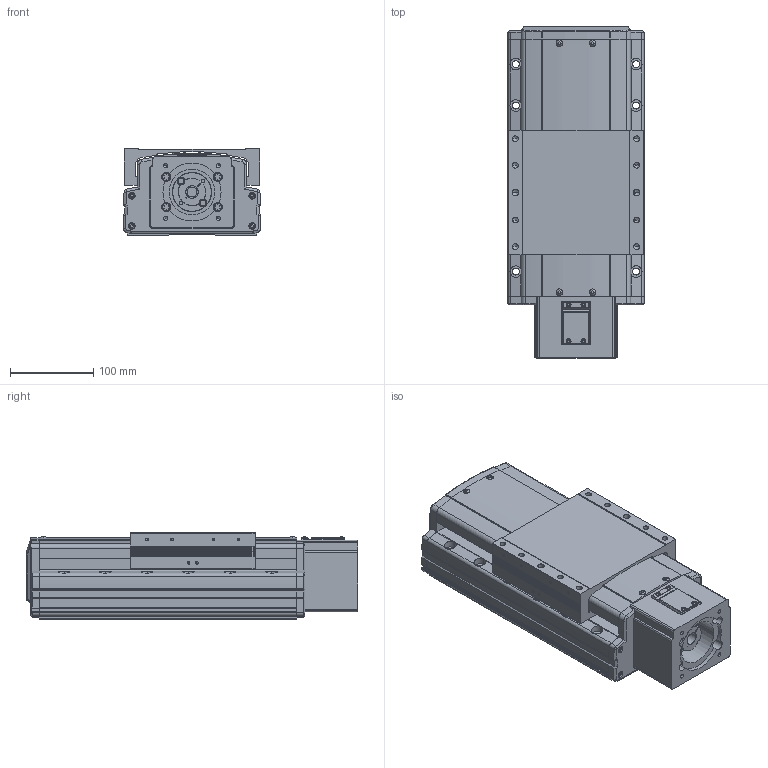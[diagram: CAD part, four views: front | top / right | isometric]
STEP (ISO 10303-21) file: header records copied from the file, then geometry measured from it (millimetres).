
FILE_DESCRIPTION(('STEP AP214'),'1');
FILE_NAME('Z:/Web/3D/PSA165/STP/PSA165-050 (3D)/PSA165ㅁㅁ-050S.stp','2014-06-23T06:17:32',(' '),(' '),'Spatial InterOp 3D',' ',' ');
FILE_SCHEMA(('automotive_design'));
Length unit declared in the file: millimetre
Products named in the file (67): 스크루 : Round - M4.0 x 12.0; RRCV-PA160; BASE; 스크루 : Round - M4.0 x 10.0; RN15; Screw 20; SLIDE; FRCV; 스크루 : Socket - M6.0 x 25.0; MTHZ-SAN150-80A; SSFX-SAN65; CPLCV-SAN65; 스크루 : Round - M3.0 x 6.0; SDWA47C(2); SDWA47C(3-1); SDWA47C(3); SDWA47C(1); SDWA47C(4); SDWA47C(5)
Bounding box: 165 x 399.8 x 104 mm (x, y, z)
Volume: 5264694.1 mm3; surface area: 528151.3 mm2
Topology: 67 solids, 67 shells, 2846 faces, 7567 edges, 4880 vertices
Faces by surface type: plane 1360, cylinder 1050, cone 327, sphere 50, bspline 35, torus 24
Entity records: 116841 total; most frequent: CARTESIAN_POINT 20404, DIRECTION 15789, ORIENTED_EDGE 14890, EDGE_CURVE 7445, AXIS2_PLACEMENT_3D 5675, VERTEX_POINT 4880, LINE 4439, VECTOR 4439
